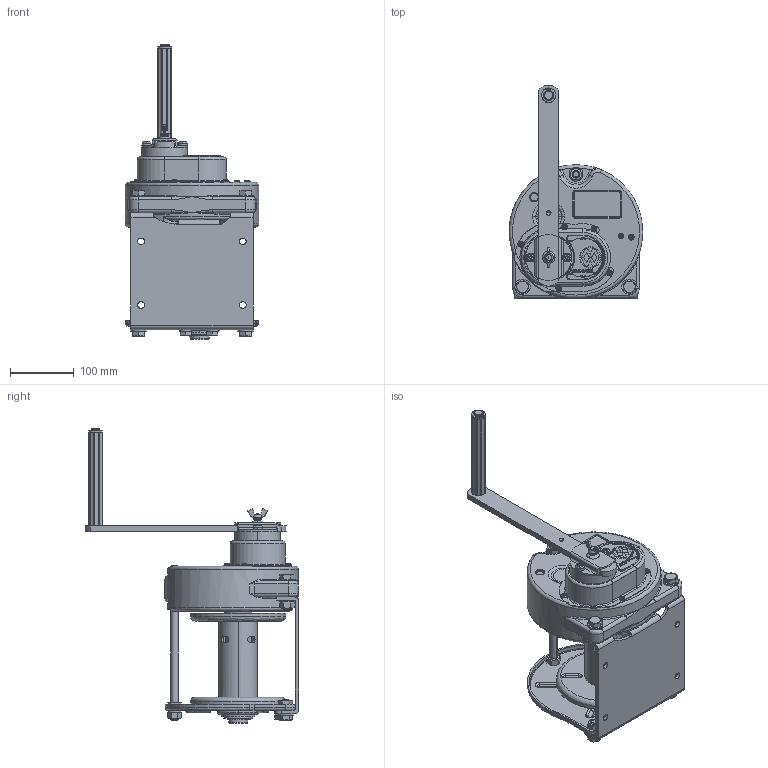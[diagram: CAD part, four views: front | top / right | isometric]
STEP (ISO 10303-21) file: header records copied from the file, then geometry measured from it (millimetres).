
FILE_DESCRIPTION( (''), '2;1');
FILE_NAME ('ST-3-SI.stp','2024-01-09T16:28:09',(''),(''),'spGate 19.8.2 (****-****-****-****)','','');
FILE_SCHEMA (('AUTOMOTIVE_DESIGN'));
Length unit declared in the file: millimetre
Products named in the file (3): Assembly; ST-3-SI-prt0; ST-3-SI-prt1
Assembly tree (2 placements, depth 2):
  Assembly
    ST-3-SI-prt0
    ST-3-SI-prt1
Bounding box: 209.96 x 335.43 x 463.5 mm (x, y, z)
Volume: 3670895.1 mm3; surface area: 587205 mm2
Topology: 2 solids, 2 shells, 2431 faces, 6307 edges, 3937 vertices
Faces by surface type: plane 1154, cylinder 748, bspline 459, sphere 70
Entity records: 133363 total; most frequent: CARTESIAN_POINT 25787, ORIENTED_EDGE 12484, DIRECTION 11835, COLOUR_RGB 8675, PRESENTATION_STYLE_ASSIGNMENT 8675, STYLED_ITEM 8675, EDGE_CURVE 6242, DRAUGHTING_PRE_DEFINED_CURVE_FONT 6242
